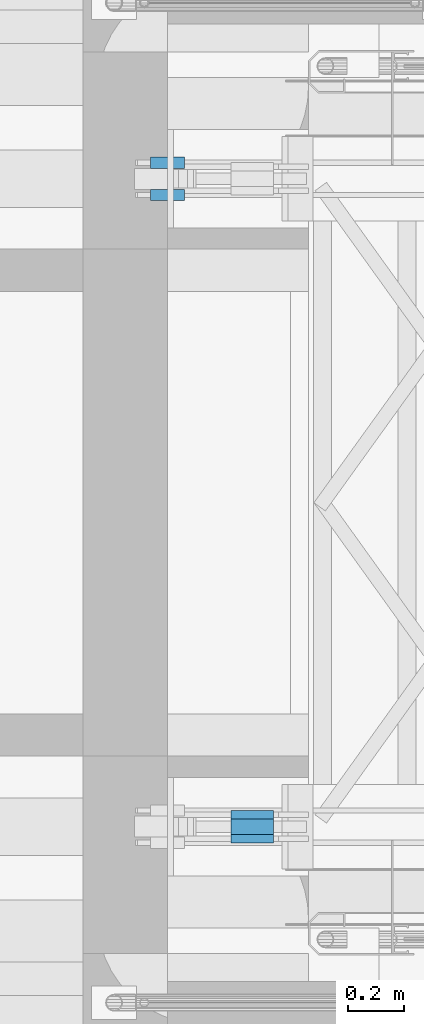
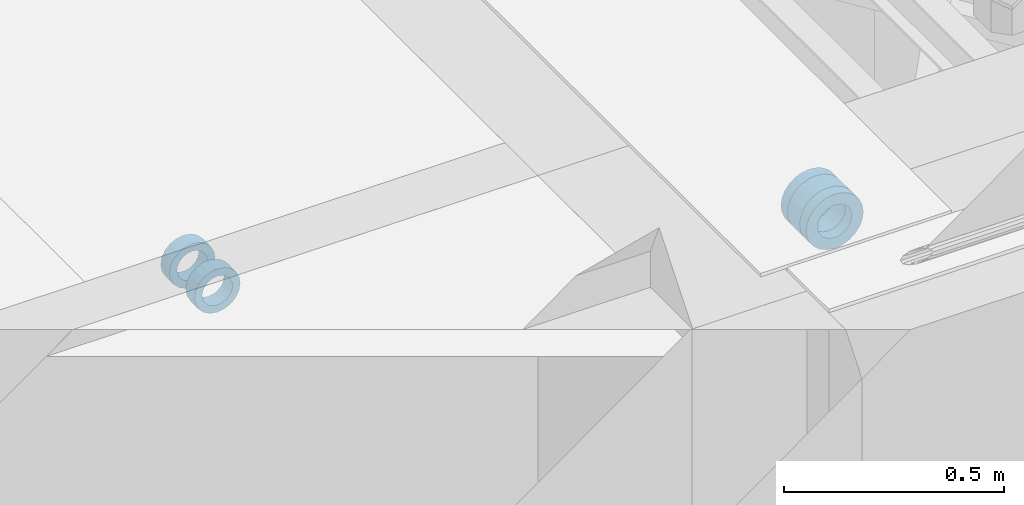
# One storey, part 21 of 31: 5 beams.
"""IFC2X3 building model written with IfcOpenShell, lengths in millimetres."""

from ifc_helpers import new_model, si_unit, frame, origin_with_axes, place, context, subcontext, project, spatial, faceted_brep, material, type_object, element, save


model = new_model("IFC2X3")

# Units and contexts
model_context = context("Model", 3, precision=1e-05, world=origin_with_axes())
body_context = subcontext(model_context, "Body", "Model", "MODEL_VIEW")
ifc_project = project(units=[si_unit("LENGTHUNIT", "METRE", prefix="MILLI"), si_unit("AREAUNIT", "SQUARE_METRE"), si_unit("VOLUMEUNIT", "CUBIC_METRE"), si_unit("MASSUNIT", "GRAM", prefix="KILO"), si_unit("TIMEUNIT", "SECOND"), si_unit("PLANEANGLEUNIT", "RADIAN"), si_unit("SOLIDANGLEUNIT", "STERADIAN"), si_unit("THERMODYNAMICTEMPERATUREUNIT", "DEGREE_CELSIUS"), si_unit("LUMINOUSINTENSITYUNIT", "LUMEN")], contexts=[model_context])

# Site, building, storey
site_placement = place(None, origin_with_axes())
site = spatial("IfcSite", under=ifc_project, at=site_placement, Name="Undefined", CompositionType="ELEMENT")
building_placement = place(site_placement, origin_with_axes())
building = spatial("IfcBuilding", under=site, at=building_placement, Name="Undefined", CompositionType="ELEMENT")
storey_placement = place(building_placement, origin_with_axes())
storey = spatial("IfcBuildingStorey", under=building, at=storey_placement, Name="Undefined", CompositionType="ELEMENT", Elevation=0.0)

# Beams
ifc_material = material(Name="STEEL/S355J2+N")
beam_type_1 = type_object("IfcBeamType", Name="O120*20", PredefinedType="NOTDEFINED")
beam_1_placement = place(storey_placement, frame((2600.0, 2223.0, -1619.69), z_axis=(0.0, 0.0, -1.0), x_axis=(0.0, 1.0, 0.0)))
element("IfcBeam", 1, at=beam_1_placement, inside=storey, type_object=beam_type_1, material=ifc_material, Name="STÅLBJELKE", context=body_context, shape_type="Brep", body=[
    faceted_brep([(0.0, -40.0, 0.0), (0.0, -38.0422606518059, 12.3606797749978), (40.0, -38.0422606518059, 12.3606797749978), (40.0, -40.0, 0.0), (0.0, -32.3606797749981, 23.511410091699), (40.0, -32.3606797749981, 23.511410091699), (0.0, -23.511410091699, 32.3606797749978), (40.0, -23.511410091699, 32.3606797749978), (0.0, -12.3606797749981, 38.0422606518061), (40.0, -12.3606797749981, 38.0422606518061), (0.0, 0.0, 40.0), (40.0, 0.0, 40.0), (0.0, 12.3606797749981, 38.0422606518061), (40.0, 12.3606797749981, 38.0422606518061), (0.0, 23.511410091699, 32.3606797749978), (40.0, 23.511410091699, 32.3606797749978), (0.0, 32.3606797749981, 23.511410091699), (40.0, 32.3606797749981, 23.511410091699), (0.0, 38.0422606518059, 12.3606797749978), (40.0, 38.0422606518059, 12.3606797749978), (0.0, 40.0, 0.0), (40.0, 40.0, 0.0), (0.0, 38.0422606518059, -12.3606797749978), (40.0, 38.0422606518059, -12.3606797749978), (0.0, 32.3606797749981, -23.511410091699), (40.0, 32.3606797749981, -23.511410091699), (0.0, 23.511410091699, -32.3606797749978), (40.0, 23.511410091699, -32.3606797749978), (0.0, 12.3606797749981, -38.0422606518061), (40.0, 12.3606797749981, -38.0422606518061), (0.0, 0.0, -40.0), (40.0, 0.0, -40.0), (0.0, -12.3606797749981, -38.0422606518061), (40.0, -12.3606797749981, -38.0422606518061), (0.0, -23.511410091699, -32.3606797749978), (40.0, -23.511410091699, -32.3606797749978), (0.0, -32.3606797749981, -23.511410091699), (40.0, -32.3606797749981, -23.511410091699), (0.0, -38.0422606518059, -12.3606797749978), (40.0, -38.0422606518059, -12.3606797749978), (0.0, -60.0, 0.0), (0.0, -57.0633909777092, -18.5410196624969), (40.0, -57.0633909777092, -18.5410196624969), (40.0, -60.0, 0.0), (0.0, -48.5410196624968, -35.2671151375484), (40.0, -48.5410196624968, -35.2671151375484), (0.0, -35.2671151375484, -48.5410196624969), (40.0, -35.2671151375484, -48.5410196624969), (0.0, -18.5410196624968, -57.0633909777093), (40.0, -18.5410196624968, -57.0633909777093), (0.0, 0.0, -60.0), (40.0, 0.0, -60.0), (0.0, 18.5410196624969, -57.0633909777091), (40.0, 18.5410196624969, -57.0633909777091), (0.0, 35.2671151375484, -48.5410196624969), (40.0, 35.2671151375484, -48.5410196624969), (0.0, 48.5410196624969, -35.2671151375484), (40.0, 48.5410196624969, -35.2671151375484), (0.0, 57.0633909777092, -18.5410196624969), (40.0, 57.0633909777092, -18.5410196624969), (0.0, 60.0, 0.0), (40.0, 60.0, 0.0), (0.0, 57.0633909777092, 18.5410196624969), (40.0, 57.0633909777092, 18.5410196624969), (0.0, 48.5410196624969, 35.2671151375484), (40.0, 48.5410196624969, 35.2671151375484), (0.0, 35.2671151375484, 48.5410196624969), (40.0, 35.2671151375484, 48.5410196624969), (0.0, 18.5410196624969, 57.0633909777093), (40.0, 18.5410196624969, 57.0633909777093), (0.0, 0.0, 60.0), (40.0, 0.0, 60.0), (0.0, -18.5410196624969, 57.0633909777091), (40.0, -18.5410196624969, 57.0633909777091), (0.0, -35.2671151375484, 48.5410196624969), (40.0, -35.2671151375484, 48.5410196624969), (0.0, -48.5410196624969, 35.2671151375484), (40.0, -48.5410196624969, 35.2671151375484), (0.0, -57.0633909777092, 18.5410196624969), (40.0, -57.0633909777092, 18.5410196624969)], [[[0, 1, 2, 3]], [[1, 4, 5, 2]], [[4, 6, 7, 5]], [[6, 8, 9, 7]], [[8, 10, 11, 9]], [[10, 12, 13, 11]], [[12, 14, 15, 13]], [[14, 16, 17, 15]], [[16, 18, 19, 17]], [[18, 20, 21, 19]], [[20, 22, 23, 21]], [[22, 24, 25, 23]], [[24, 26, 27, 25]], [[26, 28, 29, 27]], [[28, 30, 31, 29]], [[30, 32, 33, 31]], [[32, 34, 35, 33]], [[34, 36, 37, 35]], [[36, 38, 39, 37]], [[38, 0, 3, 39]], [[40, 41, 42, 43]], [[41, 44, 45, 42]], [[44, 46, 47, 45]], [[46, 48, 49, 47]], [[48, 50, 51, 49]], [[50, 52, 53, 51]], [[52, 54, 55, 53]], [[54, 56, 57, 55]], [[56, 58, 59, 57]], [[58, 60, 61, 59]], [[60, 62, 63, 61]], [[62, 64, 65, 63]], [[64, 66, 67, 65]], [[66, 68, 69, 67]], [[68, 70, 71, 69]], [[70, 72, 73, 71]], [[72, 74, 75, 73]], [[74, 76, 77, 75]], [[76, 78, 79, 77]], [[78, 40, 43, 79]], [[45, 47, 49, 51, 53, 55, 57, 59, 61, 63, 65, 67, 69, 71, 73, 75, 77, 79, 43, 42], [5, 7, 9, 11, 13, 15, 17, 19, 21, 23, 25, 27, 29, 31, 33, 35, 37, 39, 3, 2]], [[78, 76, 74, 72, 70, 68, 66, 64, 62, 60, 58, 56, 54, 52, 50, 48, 46, 44, 41, 40], [38, 36, 34, 32, 30, 28, 26, 24, 22, 20, 18, 16, 14, 12, 10, 8, 6, 4, 1, 0]]]),
])
beam_2_placement = place(storey_placement, frame((2600.0, 2337.0, -1619.69), z_axis=(0.0, 0.0, -1.0), x_axis=(0.0, 1.0, 0.0)))
element("IfcBeam", 2, at=beam_2_placement, inside=storey, type_object=beam_type_1, material=ifc_material, Name="STÅLBJELKE", context=body_context, shape_type="Brep", body=[
    faceted_brep([(0.0, -40.0, 0.0), (0.0, -38.0422606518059, 12.3606797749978), (40.0, -38.0422606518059, 12.3606797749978), (40.0, -40.0, 0.0), (0.0, -32.3606797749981, 23.511410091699), (40.0, -32.3606797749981, 23.511410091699), (0.0, -23.511410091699, 32.3606797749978), (40.0, -23.511410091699, 32.3606797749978), (0.0, -12.3606797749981, 38.0422606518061), (40.0, -12.3606797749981, 38.0422606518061), (0.0, 0.0, 40.0), (40.0, 0.0, 40.0), (0.0, 12.3606797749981, 38.0422606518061), (40.0, 12.3606797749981, 38.0422606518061), (0.0, 23.511410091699, 32.3606797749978), (40.0, 23.511410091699, 32.3606797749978), (0.0, 32.3606797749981, 23.511410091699), (40.0, 32.3606797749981, 23.511410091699), (0.0, 38.0422606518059, 12.3606797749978), (40.0, 38.0422606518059, 12.3606797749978), (0.0, 40.0, 0.0), (40.0, 40.0, 0.0), (0.0, 38.0422606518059, -12.3606797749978), (40.0, 38.0422606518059, -12.3606797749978), (0.0, 32.3606797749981, -23.511410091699), (40.0, 32.3606797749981, -23.511410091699), (0.0, 23.511410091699, -32.3606797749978), (40.0, 23.511410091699, -32.3606797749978), (0.0, 12.3606797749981, -38.0422606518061), (40.0, 12.3606797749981, -38.0422606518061), (0.0, 0.0, -40.0), (40.0, 0.0, -40.0), (0.0, -12.3606797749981, -38.0422606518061), (40.0, -12.3606797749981, -38.0422606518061), (0.0, -23.511410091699, -32.3606797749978), (40.0, -23.511410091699, -32.3606797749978), (0.0, -32.3606797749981, -23.511410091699), (40.0, -32.3606797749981, -23.511410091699), (0.0, -38.0422606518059, -12.3606797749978), (40.0, -38.0422606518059, -12.3606797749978), (0.0, -60.0, 0.0), (0.0, -57.0633909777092, -18.5410196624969), (40.0, -57.0633909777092, -18.5410196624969), (40.0, -60.0, 0.0), (0.0, -48.5410196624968, -35.2671151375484), (40.0, -48.5410196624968, -35.2671151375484), (0.0, -35.2671151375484, -48.5410196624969), (40.0, -35.2671151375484, -48.5410196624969), (0.0, -18.5410196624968, -57.0633909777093), (40.0, -18.5410196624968, -57.0633909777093), (0.0, 0.0, -60.0), (40.0, 0.0, -60.0), (0.0, 18.5410196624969, -57.0633909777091), (40.0, 18.5410196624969, -57.0633909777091), (0.0, 35.2671151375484, -48.5410196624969), (40.0, 35.2671151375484, -48.5410196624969), (0.0, 48.5410196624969, -35.2671151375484), (40.0, 48.5410196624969, -35.2671151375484), (0.0, 57.0633909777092, -18.5410196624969), (40.0, 57.0633909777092, -18.5410196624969), (0.0, 60.0, 0.0), (40.0, 60.0, 0.0), (0.0, 57.0633909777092, 18.5410196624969), (40.0, 57.0633909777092, 18.5410196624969), (0.0, 48.5410196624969, 35.2671151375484), (40.0, 48.5410196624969, 35.2671151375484), (0.0, 35.2671151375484, 48.5410196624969), (40.0, 35.2671151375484, 48.5410196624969), (0.0, 18.5410196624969, 57.0633909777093), (40.0, 18.5410196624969, 57.0633909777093), (0.0, 0.0, 60.0), (40.0, 0.0, 60.0), (0.0, -18.5410196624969, 57.0633909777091), (40.0, -18.5410196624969, 57.0633909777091), (0.0, -35.2671151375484, 48.5410196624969), (40.0, -35.2671151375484, 48.5410196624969), (0.0, -48.5410196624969, 35.2671151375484), (40.0, -48.5410196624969, 35.2671151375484), (0.0, -57.0633909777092, 18.5410196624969), (40.0, -57.0633909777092, 18.5410196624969)], [[[0, 1, 2, 3]], [[1, 4, 5, 2]], [[4, 6, 7, 5]], [[6, 8, 9, 7]], [[8, 10, 11, 9]], [[10, 12, 13, 11]], [[12, 14, 15, 13]], [[14, 16, 17, 15]], [[16, 18, 19, 17]], [[18, 20, 21, 19]], [[20, 22, 23, 21]], [[22, 24, 25, 23]], [[24, 26, 27, 25]], [[26, 28, 29, 27]], [[28, 30, 31, 29]], [[30, 32, 33, 31]], [[32, 34, 35, 33]], [[34, 36, 37, 35]], [[36, 38, 39, 37]], [[38, 0, 3, 39]], [[40, 41, 42, 43]], [[41, 44, 45, 42]], [[44, 46, 47, 45]], [[46, 48, 49, 47]], [[48, 50, 51, 49]], [[50, 52, 53, 51]], [[52, 54, 55, 53]], [[54, 56, 57, 55]], [[56, 58, 59, 57]], [[58, 60, 61, 59]], [[60, 62, 63, 61]], [[62, 64, 65, 63]], [[64, 66, 67, 65]], [[66, 68, 69, 67]], [[68, 70, 71, 69]], [[70, 72, 73, 71]], [[72, 74, 75, 73]], [[74, 76, 77, 75]], [[76, 78, 79, 77]], [[78, 40, 43, 79]], [[45, 47, 49, 51, 53, 55, 57, 59, 61, 63, 65, 67, 69, 71, 73, 75, 77, 79, 43, 42], [5, 7, 9, 11, 13, 15, 17, 19, 21, 23, 25, 27, 29, 31, 33, 35, 37, 39, 3, 2]], [[78, 76, 74, 72, 70, 68, 66, 64, 62, 60, 58, 56, 54, 52, 50, 48, 46, 44, 41, 40], [38, 36, 34, 32, 30, 28, 26, 24, 22, 20, 18, 16, 14, 12, 10, 8, 6, 4, 1, 0]]]),
])
beam_type_2 = type_object("IfcBeamType", Name="O150*30", PredefinedType="NOTDEFINED")
beam_3_placement = place(storey_placement, frame((2900.0, 27.5, -150.0), z_axis=(0.0, 0.0, -1.0), x_axis=(0.0, 1.0, 0.0)))
element("IfcBeam", 3, at=beam_3_placement, inside=storey, type_object=beam_type_2, material=ifc_material, Name="INNFESTING", context=body_context, shape_type="Brep", body=[
    faceted_brep([(0.0, -45.0, 0.0), (0.0, -43.4666621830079, 11.6468570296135), (30.0, -43.4666621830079, 11.6468570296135), (30.0, -45.0, 0.0), (0.0, -38.9711431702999, 22.5), (30.0, -38.9711431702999, 22.5), (0.0, -31.8198051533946, 31.8198051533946), (30.0, -31.8198051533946, 31.8198051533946), (0.0, -22.5, 38.9711431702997), (30.0, -22.5, 38.9711431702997), (0.0, -11.6468570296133, 43.4666621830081), (30.0, -11.6468570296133, 43.4666621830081), (0.0, 0.0, 45.0), (30.0, 0.0, 45.0), (0.0, 11.6468570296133, 43.4666621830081), (30.0, 11.6468570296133, 43.4666621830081), (0.0, 22.5, 38.9711431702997), (30.0, 22.5, 38.9711431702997), (0.0, 31.8198051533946, 31.8198051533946), (30.0, 31.8198051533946, 31.8198051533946), (0.0, 38.9711431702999, 22.5), (30.0, 38.9711431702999, 22.5), (0.0, 43.4666621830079, 11.6468570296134), (30.0, 43.4666621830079, 11.6468570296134), (0.0, 45.0, 0.0), (30.0, 45.0, 0.0), (0.0, 43.4666621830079, -11.6468570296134), (30.0, 43.4666621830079, -11.6468570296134), (0.0, 38.9711431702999, -22.5), (30.0, 38.9711431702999, -22.5), (0.0, 31.8198051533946, -31.8198051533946), (30.0, 31.8198051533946, -31.8198051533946), (0.0, 22.5, -38.9711431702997), (30.0, 22.5, -38.9711431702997), (0.0, 11.6468570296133, -43.4666621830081), (30.0, 11.6468570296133, -43.4666621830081), (0.0, 0.0, -45.0), (30.0, 0.0, -45.0), (0.0, -11.6468570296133, -43.4666621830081), (30.0, -11.6468570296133, -43.4666621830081), (0.0, -22.5, -38.9711431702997), (30.0, -22.5, -38.9711431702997), (0.0, -31.8198051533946, -31.8198051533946), (30.0, -31.8198051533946, -31.8198051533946), (0.0, -38.9711431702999, -22.5), (30.0, -38.9711431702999, -22.5), (0.0, -43.4666621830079, -11.6468570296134), (30.0, -43.4666621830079, -11.6468570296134), (0.0, -75.0, 0.0), (0.0, -72.4444369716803, -19.4114283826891), (30.0, -72.4444369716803, -19.4114283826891), (30.0, -75.0, 0.0), (0.0, -64.9519052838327, -37.5), (30.0, -64.9519052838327, -37.5), (0.0, -53.0330085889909, -53.0330085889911), (30.0, -53.0330085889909, -53.0330085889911), (0.0, -37.5, -64.9519052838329), (30.0, -37.5, -64.9519052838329), (0.0, -19.4114283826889, -72.4444369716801), (30.0, -19.4114283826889, -72.4444369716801), (0.0, 0.0, -75.0), (30.0, 0.0, -75.0), (0.0, 19.4114283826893, -72.4444369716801), (30.0, 19.4114283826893, -72.4444369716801), (0.0, 37.5, -64.9519052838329), (30.0, 37.5, -64.9519052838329), (0.0, 53.0330085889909, -53.033008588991), (30.0, 53.0330085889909, -53.033008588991), (0.0, 64.9519052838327, -37.5), (30.0, 64.9519052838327, -37.5), (0.0, 72.4444369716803, -19.411428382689), (30.0, 72.4444369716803, -19.411428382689), (0.0, 75.0, 0.0), (30.0, 75.0, 0.0), (0.0, 72.4444369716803, 19.4114283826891), (30.0, 72.4444369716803, 19.4114283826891), (0.0, 64.9519052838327, 37.5), (30.0, 64.9519052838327, 37.5), (0.0, 53.0330085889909, 53.0330085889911), (30.0, 53.0330085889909, 53.0330085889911), (0.0, 37.5, 64.9519052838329), (30.0, 37.5, 64.9519052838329), (0.0, 19.4114283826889, 72.4444369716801), (30.0, 19.4114283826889, 72.4444369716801), (0.0, 0.0, 75.0), (30.0, 0.0, 75.0), (0.0, -19.4114283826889, 72.4444369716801), (30.0, -19.4114283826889, 72.4444369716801), (0.0, -37.5, 64.9519052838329), (30.0, -37.5, 64.9519052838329), (0.0, -53.0330085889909, 53.0330085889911), (30.0, -53.0330085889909, 53.0330085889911), (0.0, -64.9519052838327, 37.5), (30.0, -64.9519052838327, 37.5), (0.0, -72.4444369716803, 19.4114283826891), (30.0, -72.4444369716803, 19.4114283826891)], [[[0, 1, 2, 3]], [[1, 4, 5, 2]], [[4, 6, 7, 5]], [[6, 8, 9, 7]], [[8, 10, 11, 9]], [[10, 12, 13, 11]], [[12, 14, 15, 13]], [[14, 16, 17, 15]], [[16, 18, 19, 17]], [[18, 20, 21, 19]], [[20, 22, 23, 21]], [[22, 24, 25, 23]], [[24, 26, 27, 25]], [[26, 28, 29, 27]], [[28, 30, 31, 29]], [[30, 32, 33, 31]], [[32, 34, 35, 33]], [[34, 36, 37, 35]], [[36, 38, 39, 37]], [[38, 40, 41, 39]], [[40, 42, 43, 41]], [[42, 44, 45, 43]], [[44, 46, 47, 45]], [[46, 0, 3, 47]], [[48, 49, 50, 51]], [[49, 52, 53, 50]], [[52, 54, 55, 53]], [[54, 56, 57, 55]], [[56, 58, 59, 57]], [[58, 60, 61, 59]], [[60, 62, 63, 61]], [[62, 64, 65, 63]], [[64, 66, 67, 65]], [[66, 68, 69, 67]], [[68, 70, 71, 69]], [[70, 72, 73, 71]], [[72, 74, 75, 73]], [[74, 76, 77, 75]], [[76, 78, 79, 77]], [[78, 80, 81, 79]], [[80, 82, 83, 81]], [[82, 84, 85, 83]], [[84, 86, 87, 85]], [[86, 88, 89, 87]], [[88, 90, 91, 89]], [[90, 92, 93, 91]], [[92, 94, 95, 93]], [[94, 48, 51, 95]], [[53, 55, 57, 59, 61, 63, 65, 67, 69, 71, 73, 75, 77, 79, 81, 83, 85, 87, 89, 91, 93, 95, 51, 50], [5, 7, 9, 11, 13, 15, 17, 19, 21, 23, 25, 27, 29, 31, 33, 35, 37, 39, 41, 43, 45, 47, 3, 2]], [[94, 92, 90, 88, 86, 84, 82, 80, 78, 76, 74, 72, 70, 68, 66, 64, 62, 60, 58, 56, 54, 52, 49, 48], [46, 44, 42, 40, 38, 36, 34, 32, 30, 28, 26, 24, 22, 20, 18, 16, 14, 12, 10, 8, 6, 4, 1, 0]]]),
])
beam_4_placement = place(storey_placement, frame((2900.0, -57.5, -150.0), z_axis=(0.0, 0.0, -1.0), x_axis=(0.0, 1.0, 0.0)))
element("IfcBeam", 4, at=beam_4_placement, inside=storey, type_object=beam_type_2, material=ifc_material, Name="INNFESTING", context=body_context, shape_type="Brep", body=[
    faceted_brep([(0.0, -45.0, 0.0), (0.0, -43.4666621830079, 11.6468570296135), (30.0, -43.4666621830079, 11.6468570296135), (30.0, -45.0, 0.0), (0.0, -38.9711431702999, 22.5), (30.0, -38.9711431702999, 22.5), (0.0, -31.8198051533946, 31.8198051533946), (30.0, -31.8198051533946, 31.8198051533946), (0.0, -22.5, 38.9711431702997), (30.0, -22.5, 38.9711431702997), (0.0, -11.6468570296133, 43.4666621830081), (30.0, -11.6468570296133, 43.4666621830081), (0.0, 0.0, 45.0), (30.0, 0.0, 45.0), (0.0, 11.6468570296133, 43.4666621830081), (30.0, 11.6468570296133, 43.4666621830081), (0.0, 22.5, 38.9711431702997), (30.0, 22.5, 38.9711431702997), (0.0, 31.8198051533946, 31.8198051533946), (30.0, 31.8198051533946, 31.8198051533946), (0.0, 38.9711431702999, 22.5), (30.0, 38.9711431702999, 22.5), (0.0, 43.4666621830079, 11.6468570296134), (30.0, 43.4666621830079, 11.6468570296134), (0.0, 45.0, 0.0), (30.0, 45.0, 0.0), (0.0, 43.4666621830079, -11.6468570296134), (30.0, 43.4666621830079, -11.6468570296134), (0.0, 38.9711431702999, -22.5), (30.0, 38.9711431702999, -22.5), (0.0, 31.8198051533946, -31.8198051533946), (30.0, 31.8198051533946, -31.8198051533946), (0.0, 22.5, -38.9711431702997), (30.0, 22.5, -38.9711431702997), (0.0, 11.6468570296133, -43.4666621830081), (30.0, 11.6468570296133, -43.4666621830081), (0.0, 0.0, -45.0), (30.0, 0.0, -45.0), (0.0, -11.6468570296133, -43.4666621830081), (30.0, -11.6468570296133, -43.4666621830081), (0.0, -22.5, -38.9711431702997), (30.0, -22.5, -38.9711431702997), (0.0, -31.8198051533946, -31.8198051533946), (30.0, -31.8198051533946, -31.8198051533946), (0.0, -38.9711431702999, -22.5), (30.0, -38.9711431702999, -22.5), (0.0, -43.4666621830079, -11.6468570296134), (30.0, -43.4666621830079, -11.6468570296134), (0.0, -75.0, 0.0), (0.0, -72.4444369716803, -19.4114283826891), (30.0, -72.4444369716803, -19.4114283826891), (30.0, -75.0, 0.0), (0.0, -64.9519052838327, -37.5), (30.0, -64.9519052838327, -37.5), (0.0, -53.0330085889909, -53.0330085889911), (30.0, -53.0330085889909, -53.0330085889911), (0.0, -37.5, -64.9519052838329), (30.0, -37.5, -64.9519052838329), (0.0, -19.4114283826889, -72.4444369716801), (30.0, -19.4114283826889, -72.4444369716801), (0.0, 0.0, -75.0), (30.0, 0.0, -75.0), (0.0, 19.4114283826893, -72.4444369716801), (30.0, 19.4114283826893, -72.4444369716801), (0.0, 37.5, -64.9519052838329), (30.0, 37.5, -64.9519052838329), (0.0, 53.0330085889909, -53.033008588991), (30.0, 53.0330085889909, -53.033008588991), (0.0, 64.9519052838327, -37.5), (30.0, 64.9519052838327, -37.5), (0.0, 72.4444369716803, -19.411428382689), (30.0, 72.4444369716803, -19.411428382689), (0.0, 75.0, 0.0), (30.0, 75.0, 0.0), (0.0, 72.4444369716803, 19.4114283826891), (30.0, 72.4444369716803, 19.4114283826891), (0.0, 64.9519052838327, 37.5), (30.0, 64.9519052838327, 37.5), (0.0, 53.0330085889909, 53.0330085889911), (30.0, 53.0330085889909, 53.0330085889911), (0.0, 37.5, 64.9519052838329), (30.0, 37.5, 64.9519052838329), (0.0, 19.4114283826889, 72.4444369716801), (30.0, 19.4114283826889, 72.4444369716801), (0.0, 0.0, 75.0), (30.0, 0.0, 75.0), (0.0, -19.4114283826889, 72.4444369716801), (30.0, -19.4114283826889, 72.4444369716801), (0.0, -37.5, 64.9519052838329), (30.0, -37.5, 64.9519052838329), (0.0, -53.0330085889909, 53.0330085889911), (30.0, -53.0330085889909, 53.0330085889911), (0.0, -64.9519052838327, 37.5), (30.0, -64.9519052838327, 37.5), (0.0, -72.4444369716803, 19.4114283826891), (30.0, -72.4444369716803, 19.4114283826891)], [[[0, 1, 2, 3]], [[1, 4, 5, 2]], [[4, 6, 7, 5]], [[6, 8, 9, 7]], [[8, 10, 11, 9]], [[10, 12, 13, 11]], [[12, 14, 15, 13]], [[14, 16, 17, 15]], [[16, 18, 19, 17]], [[18, 20, 21, 19]], [[20, 22, 23, 21]], [[22, 24, 25, 23]], [[24, 26, 27, 25]], [[26, 28, 29, 27]], [[28, 30, 31, 29]], [[30, 32, 33, 31]], [[32, 34, 35, 33]], [[34, 36, 37, 35]], [[36, 38, 39, 37]], [[38, 40, 41, 39]], [[40, 42, 43, 41]], [[42, 44, 45, 43]], [[44, 46, 47, 45]], [[46, 0, 3, 47]], [[48, 49, 50, 51]], [[49, 52, 53, 50]], [[52, 54, 55, 53]], [[54, 56, 57, 55]], [[56, 58, 59, 57]], [[58, 60, 61, 59]], [[60, 62, 63, 61]], [[62, 64, 65, 63]], [[64, 66, 67, 65]], [[66, 68, 69, 67]], [[68, 70, 71, 69]], [[70, 72, 73, 71]], [[72, 74, 75, 73]], [[74, 76, 77, 75]], [[76, 78, 79, 77]], [[78, 80, 81, 79]], [[80, 82, 83, 81]], [[82, 84, 85, 83]], [[84, 86, 87, 85]], [[86, 88, 89, 87]], [[88, 90, 91, 89]], [[90, 92, 93, 91]], [[92, 94, 95, 93]], [[94, 48, 51, 95]], [[53, 55, 57, 59, 61, 63, 65, 67, 69, 71, 73, 75, 77, 79, 81, 83, 85, 87, 89, 91, 93, 95, 51, 50], [5, 7, 9, 11, 13, 15, 17, 19, 21, 23, 25, 27, 29, 31, 33, 35, 37, 39, 41, 43, 45, 47, 3, 2]], [[94, 92, 90, 88, 86, 84, 82, 80, 78, 76, 74, 72, 70, 68, 66, 64, 62, 60, 58, 56, 54, 52, 49, 48], [46, 44, 42, 40, 38, 36, 34, 32, 30, 28, 26, 24, 22, 20, 18, 16, 14, 12, 10, 8, 6, 4, 1, 0]]]),
])
beam_5_placement = place(storey_placement, frame((2900.0, -30.0, -150.0), z_axis=(0.0, 0.0, -1.0), x_axis=(0.0, 1.0, 0.0)))
element("IfcBeam", 5, at=beam_5_placement, inside=storey, type_object=beam_type_2, material=ifc_material, Name="STÅLBJELKE", context=body_context, shape_type="Brep", body=[
    faceted_brep([(0.0, -45.0, 0.0), (0.0, -43.4666621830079, 11.6468570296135), (60.0, -43.4666621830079, 11.6468570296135), (60.0, -45.0, 0.0), (0.0, -38.9711431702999, 22.5), (60.0, -38.9711431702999, 22.5), (0.0, -31.8198051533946, 31.8198051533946), (60.0, -31.8198051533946, 31.8198051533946), (0.0, -22.5, 38.9711431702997), (60.0, -22.5, 38.9711431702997), (0.0, -11.6468570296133, 43.4666621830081), (60.0, -11.6468570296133, 43.4666621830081), (0.0, 0.0, 45.0), (60.0, 0.0, 45.0), (0.0, 11.6468570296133, 43.4666621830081), (60.0, 11.6468570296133, 43.4666621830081), (0.0, 22.5, 38.9711431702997), (60.0, 22.5, 38.9711431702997), (0.0, 31.8198051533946, 31.8198051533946), (60.0, 31.8198051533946, 31.8198051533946), (0.0, 38.9711431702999, 22.5), (60.0, 38.9711431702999, 22.5), (0.0, 43.4666621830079, 11.6468570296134), (60.0, 43.4666621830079, 11.6468570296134), (0.0, 45.0, 0.0), (60.0, 45.0, 0.0), (0.0, 43.4666621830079, -11.6468570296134), (60.0, 43.4666621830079, -11.6468570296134), (0.0, 38.9711431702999, -22.5), (60.0, 38.9711431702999, -22.5), (0.0, 31.8198051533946, -31.8198051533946), (60.0, 31.8198051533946, -31.8198051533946), (0.0, 22.5, -38.9711431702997), (60.0, 22.5, -38.9711431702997), (0.0, 11.6468570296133, -43.4666621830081), (60.0, 11.6468570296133, -43.4666621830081), (0.0, 0.0, -45.0), (60.0, 0.0, -45.0), (0.0, -11.6468570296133, -43.4666621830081), (60.0, -11.6468570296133, -43.4666621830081), (0.0, -22.5, -38.9711431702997), (60.0, -22.5, -38.9711431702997), (0.0, -31.8198051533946, -31.8198051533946), (60.0, -31.8198051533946, -31.8198051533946), (0.0, -38.9711431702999, -22.5), (60.0, -38.9711431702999, -22.5), (0.0, -43.4666621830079, -11.6468570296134), (60.0, -43.4666621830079, -11.6468570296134), (0.0, -75.0, 0.0), (0.0, -72.4444369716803, -19.4114283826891), (60.0, -72.4444369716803, -19.4114283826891), (60.0, -75.0, 0.0), (0.0, -64.9519052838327, -37.5), (60.0, -64.9519052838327, -37.5), (0.0, -53.0330085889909, -53.0330085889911), (60.0, -53.0330085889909, -53.0330085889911), (0.0, -37.5, -64.9519052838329), (60.0, -37.5, -64.9519052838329), (0.0, -19.4114283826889, -72.4444369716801), (60.0, -19.4114283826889, -72.4444369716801), (0.0, 0.0, -75.0), (60.0, 0.0, -75.0), (0.0, 19.4114283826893, -72.4444369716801), (60.0, 19.4114283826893, -72.4444369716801), (0.0, 37.5, -64.9519052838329), (60.0, 37.5, -64.9519052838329), (0.0, 53.0330085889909, -53.033008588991), (60.0, 53.0330085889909, -53.033008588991), (0.0, 64.9519052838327, -37.5), (60.0, 64.9519052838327, -37.5), (0.0, 72.4444369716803, -19.411428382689), (60.0, 72.4444369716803, -19.411428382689), (0.0, 75.0, 0.0), (60.0, 75.0, 0.0), (0.0, 72.4444369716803, 19.4114283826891), (60.0, 72.4444369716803, 19.4114283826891), (0.0, 64.9519052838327, 37.5), (60.0, 64.9519052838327, 37.5), (0.0, 53.0330085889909, 53.0330085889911), (60.0, 53.0330085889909, 53.0330085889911), (0.0, 37.5, 64.9519052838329), (60.0, 37.5, 64.9519052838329), (0.0, 19.4114283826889, 72.4444369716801), (60.0, 19.4114283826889, 72.4444369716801), (0.0, 0.0, 75.0), (60.0, 0.0, 75.0), (0.0, -19.4114283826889, 72.4444369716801), (60.0, -19.4114283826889, 72.4444369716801), (0.0, -37.5, 64.9519052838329), (60.0, -37.5, 64.9519052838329), (0.0, -53.0330085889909, 53.0330085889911), (60.0, -53.0330085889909, 53.0330085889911), (0.0, -64.9519052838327, 37.5), (60.0, -64.9519052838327, 37.5), (0.0, -72.4444369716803, 19.4114283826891), (60.0, -72.4444369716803, 19.4114283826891)], [[[0, 1, 2, 3]], [[1, 4, 5, 2]], [[4, 6, 7, 5]], [[6, 8, 9, 7]], [[8, 10, 11, 9]], [[10, 12, 13, 11]], [[12, 14, 15, 13]], [[14, 16, 17, 15]], [[16, 18, 19, 17]], [[18, 20, 21, 19]], [[20, 22, 23, 21]], [[22, 24, 25, 23]], [[24, 26, 27, 25]], [[26, 28, 29, 27]], [[28, 30, 31, 29]], [[30, 32, 33, 31]], [[32, 34, 35, 33]], [[34, 36, 37, 35]], [[36, 38, 39, 37]], [[38, 40, 41, 39]], [[40, 42, 43, 41]], [[42, 44, 45, 43]], [[44, 46, 47, 45]], [[46, 0, 3, 47]], [[48, 49, 50, 51]], [[49, 52, 53, 50]], [[52, 54, 55, 53]], [[54, 56, 57, 55]], [[56, 58, 59, 57]], [[58, 60, 61, 59]], [[60, 62, 63, 61]], [[62, 64, 65, 63]], [[64, 66, 67, 65]], [[66, 68, 69, 67]], [[68, 70, 71, 69]], [[70, 72, 73, 71]], [[72, 74, 75, 73]], [[74, 76, 77, 75]], [[76, 78, 79, 77]], [[78, 80, 81, 79]], [[80, 82, 83, 81]], [[82, 84, 85, 83]], [[84, 86, 87, 85]], [[86, 88, 89, 87]], [[88, 90, 91, 89]], [[90, 92, 93, 91]], [[92, 94, 95, 93]], [[94, 48, 51, 95]], [[53, 55, 57, 59, 61, 63, 65, 67, 69, 71, 73, 75, 77, 79, 81, 83, 85, 87, 89, 91, 93, 95, 51, 50], [5, 7, 9, 11, 13, 15, 17, 19, 21, 23, 25, 27, 29, 31, 33, 35, 37, 39, 41, 43, 45, 47, 3, 2]], [[94, 92, 90, 88, 86, 84, 82, 80, 78, 76, 74, 72, 70, 68, 66, 64, 62, 60, 58, 56, 54, 52, 49, 48], [46, 44, 42, 40, 38, 36, 34, 32, 30, 28, 26, 24, 22, 20, 18, 16, 14, 12, 10, 8, 6, 4, 1, 0]]]),
])

save(model, "model.ifc")
